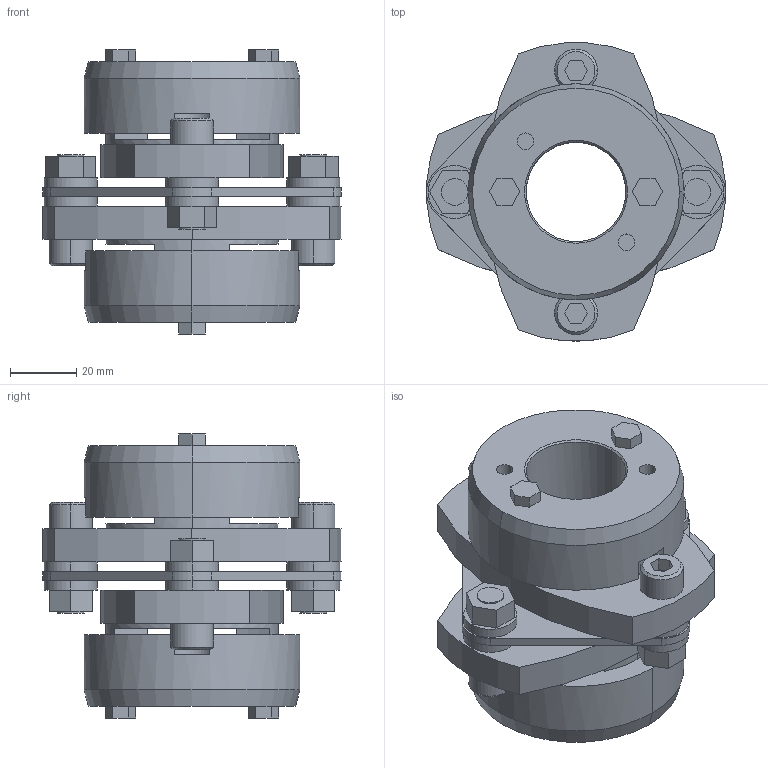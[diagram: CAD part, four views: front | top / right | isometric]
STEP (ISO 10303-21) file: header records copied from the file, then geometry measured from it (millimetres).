
FILE_DESCRIPTION((''),'2;1');
FILE_NAME('LCS-90T7-30×30.stp','2011-09-09T10:15:02',(''),(''),'AutoCAD STEP 2000i','AutoCAD 2000i',', , ');
FILE_SCHEMA(('CONFIG_CONTROL_DESIGN'));
Length unit declared in the file: millimetre
Products named in the file (11): LCS-90T7-30×30; 忣兜1; LC90T7-T030-1; LC90T7-T030; LC90T7-T025-1; LC90T7-T025; LC90T7-T019-1; LC90T7-T019; LC90-B019-1; LC90-B019; LCS90-ITA
Assembly tree (10 placements, depth 2):
  LCS-90T7-30×30
    忣兜1
    LC90T7-T030-1
    LC90T7-T030
    LC90T7-T025-1
    LC90T7-T025
    LC90T7-T019-1
    LC90T7-T019
    LC90-B019-1
    LC90-B019
    LCS90-ITA
Bounding box: 90 x 89.94 x 85.5 mm (x, y, z)
Volume: 207466.4 mm3; surface area: 54139.7 mm2
Topology: 1 solids, 1 shells, 226 faces, 556 edges, 364 vertices
Faces by surface type: plane 122, cylinder 84, cone 20
Entity records: 6983 total; most frequent: DIRECTION 1242, CARTESIAN_POINT 1157, ORIENTED_EDGE 1112, EDGE_CURVE 556, AXIS2_PLACEMENT_3D 449, VERTEX_POINT 364, VECTOR 344, LINE 344
